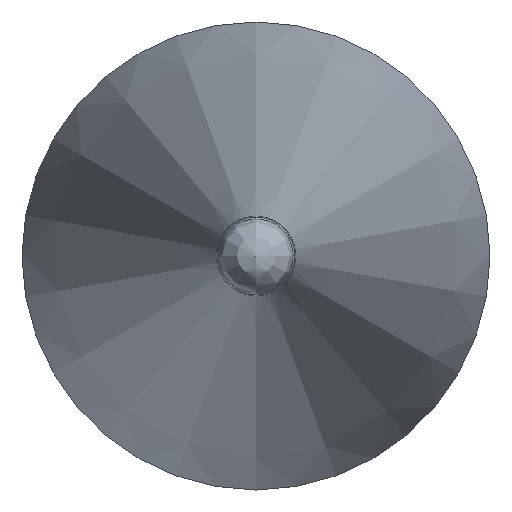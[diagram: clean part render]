
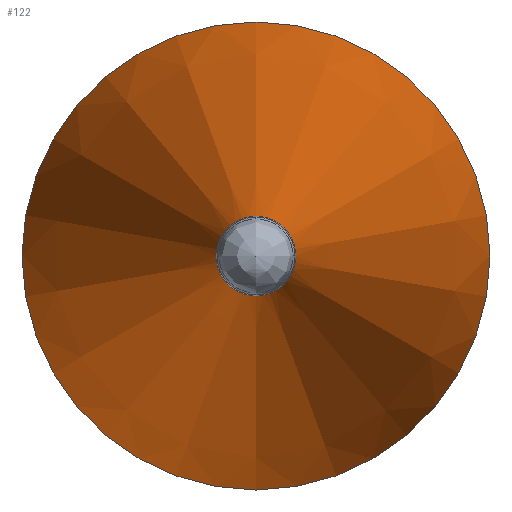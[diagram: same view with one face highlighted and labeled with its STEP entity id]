
A CAD part, left-side view. The second image highlights one B-rep face of the part: STEP entity #122.
In plain terms, the highlighted conical face has half-angle 12 degrees and reference radius 3 mm.
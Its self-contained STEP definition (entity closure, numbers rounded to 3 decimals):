
#98=CONICAL_SURFACE('',#197,3.,12.);
#107=FACE_BOUND('',#136,.T.);
#108=FACE_BOUND('',#137,.T.);
#122=ADVANCED_FACE('',(#107,#108),#98,.T.);
#136=EDGE_LOOP('',(#152));
#137=EDGE_LOOP('',(#153));
#152=ORIENTED_EDGE('',*,*,#175,.T.);
#153=ORIENTED_EDGE('',*,*,#176,.F.);
#166=VERTEX_POINT('',#249);
#167=VERTEX_POINT('',#252);
#175=EDGE_CURVE('',#166,#166,#183,.T.);
#176=EDGE_CURVE('',#167,#167,#184,.T.);
#183=CIRCLE('',#194,0.511);
#184=CIRCLE('',#196,3.);
#194=AXIS2_PLACEMENT_3D('',#248,#217,#218);
#196=AXIS2_PLACEMENT_3D('',#251,#221,#222);
#197=AXIS2_PLACEMENT_3D('',#253,#223,#224);
#217=DIRECTION('',(1.,0.,0.));
#218=DIRECTION('',(0.,0.,-1.));
#221=DIRECTION('',(1.,0.,0.));
#222=DIRECTION('',(0.,0.,-1.));
#223=DIRECTION('',(1.,0.,0.));
#224=DIRECTION('',(0.,0.,-1.));
#248=CARTESIAN_POINT('',(7899.912,6103.288,0.));
#249=CARTESIAN_POINT('',(7899.912,6103.288,-0.511));
#251=CARTESIAN_POINT('',(7911.62,6103.288,0.));
#252=CARTESIAN_POINT('',(7911.62,6103.288,-3.));
#253=CARTESIAN_POINT('',(7911.62,6103.288,0.));
